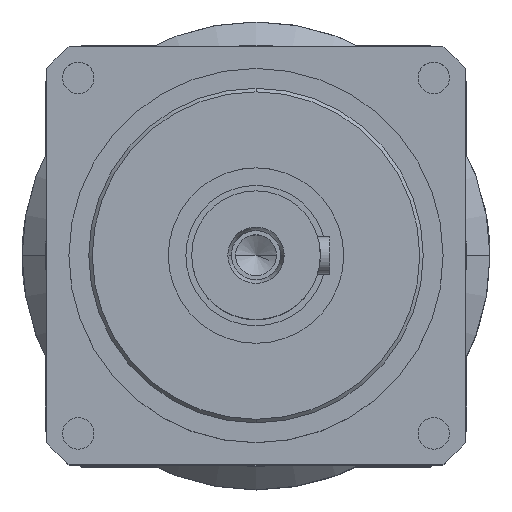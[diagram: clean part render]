
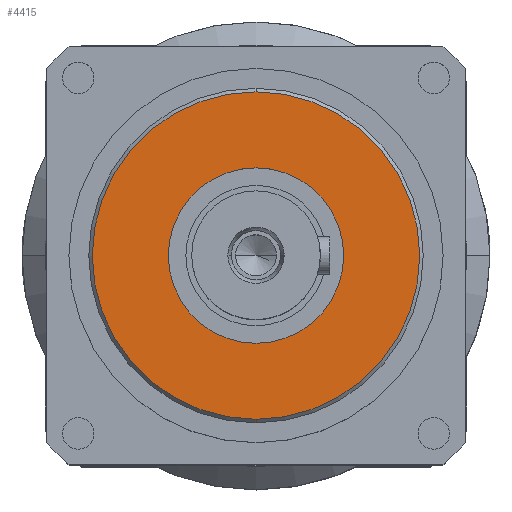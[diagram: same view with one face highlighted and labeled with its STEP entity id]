
A CAD part, top view. The second image highlights one B-rep face of the part: STEP entity #4415.
In plain terms, the highlighted planar face has unit normal (0, 0, 1).
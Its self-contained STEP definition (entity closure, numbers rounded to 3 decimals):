
#583 = CARTESIAN_POINT ( 'NONE',  ( 0., 0., 0. ) ) ;
#2006 = CARTESIAN_POINT ( 'NONE',  ( 37.5, 0., 0. ) ) ;
#3152 = CARTESIAN_POINT ( 'NONE',  ( 0., 0., 0. ) ) ;
#3642 = DIRECTION ( 'NONE',  ( 0., 1., 0. ) ) ;
#4415 = ADVANCED_FACE ( 'NONE', ( #28541, #4586 ), #33225, .F. ) ;
#4440 = EDGE_LOOP ( 'NONE', ( #9585, #25651 ) ) ;
#4586 = FACE_BOUND ( 'NONE', #4440, .T. ) ;
#5161 = ORIENTED_EDGE ( 'NONE', *, *, #30505, .F. ) ;
#5409 = EDGE_LOOP ( 'NONE', ( #7182, #5161 ) ) ;
#5471 = AXIS2_PLACEMENT_3D ( 'NONE', #27478, #8966, #17354 ) ;
#6064 = DIRECTION ( 'NONE',  ( 0., 0., 1. ) ) ;
#6194 = DIRECTION ( 'NONE',  ( 1., 0., 0. ) ) ;
#7182 = ORIENTED_EDGE ( 'NONE', *, *, #15499, .F. ) ;
#7216 = CARTESIAN_POINT ( 'NONE',  ( 0., -70., 0. ) ) ;
#8966 = DIRECTION ( 'NONE',  ( 0., 0., -1. ) ) ;
#9585 = ORIENTED_EDGE ( 'NONE', *, *, #33538, .F. ) ;
#10534 = AXIS2_PLACEMENT_3D ( 'NONE', #583, #21728, #3642 ) ;
#11712 = CIRCLE ( 'NONE', #34623, 70. ) ;
#11731 = VERTEX_POINT ( 'NONE', #24098 ) ;
#12439 = CARTESIAN_POINT ( 'NONE',  ( 0., 70., 0. ) ) ;
#13290 = VERTEX_POINT ( 'NONE', #12439 ) ;
#15499 = EDGE_CURVE ( 'NONE', #13290, #21894, #37916, .T. ) ;
#17354 = DIRECTION ( 'NONE',  ( -1., 0., 0. ) ) ;
#18037 = CARTESIAN_POINT ( 'NONE',  ( 0., 0., 0. ) ) ;
#18489 = EDGE_CURVE ( 'NONE', #11731, #27392, #37440, .T. ) ;
#21045 = DIRECTION ( 'NONE',  ( 0., 1., 0. ) ) ;
#21728 = DIRECTION ( 'NONE',  ( 0., 0., -1. ) ) ;
#21894 = VERTEX_POINT ( 'NONE', #7216 ) ;
#24098 = CARTESIAN_POINT ( 'NONE',  ( -37.5, 0., 0. ) ) ;
#24112 = CARTESIAN_POINT ( 'NONE',  ( 0., 0., 0. ) ) ;
#24260 = DIRECTION ( 'NONE',  ( 0., 0., 1. ) ) ;
#25651 = ORIENTED_EDGE ( 'NONE', *, *, #18489, .F. ) ;
#25867 = AXIS2_PLACEMENT_3D ( 'NONE', #3152, #24260, #6194 ) ;
#27081 = DIRECTION ( 'NONE',  ( 1., 0., 0. ) ) ;
#27392 = VERTEX_POINT ( 'NONE', #2006 ) ;
#27478 = CARTESIAN_POINT ( 'NONE',  ( 0., 70., 0. ) ) ;
#28541 = FACE_OUTER_BOUND ( 'NONE', #5409, .T. ) ;
#30505 = EDGE_CURVE ( 'NONE', #21894, #13290, #11712, .T. ) ;
#32742 = CIRCLE ( 'NONE', #25867, 37.5 ) ;
#33225 = PLANE ( 'NONE',  #5471 ) ;
#33538 = EDGE_CURVE ( 'NONE', #27392, #11731, #32742, .T. ) ;
#34623 = AXIS2_PLACEMENT_3D ( 'NONE', #18037, #38646, #21045 ) ;
#37440 = CIRCLE ( 'NONE', #37739, 37.5 ) ;
#37739 = AXIS2_PLACEMENT_3D ( 'NONE', #24112, #6064, #27081 ) ;
#37916 = CIRCLE ( 'NONE', #10534, 70. ) ;
#38646 = DIRECTION ( 'NONE',  ( 0., 0., -1. ) ) ;
